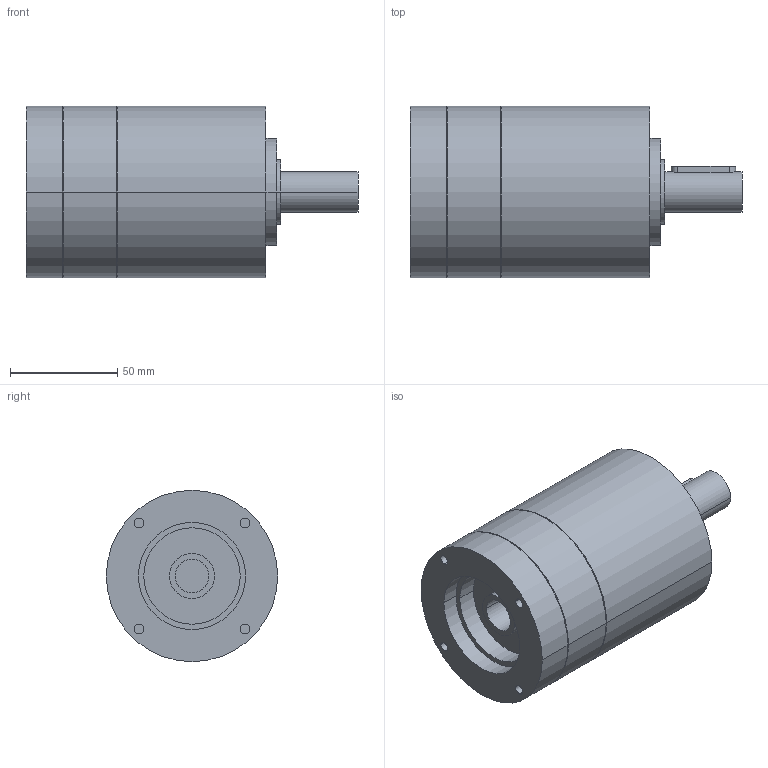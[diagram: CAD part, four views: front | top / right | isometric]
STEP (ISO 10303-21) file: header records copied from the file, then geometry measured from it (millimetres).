
FILE_DESCRIPTION(('CoCreate Modeling STEP Export'),'2;1');
FILE_NAME('GPR100_ig-3-4-5-6_19_B14_15.87_P15.stp','2014-08-26T10:07:41',(''),(''),'CoCreate Modeling STEP processor for AP214 (Solid Model)','CoCreate Modeling 16.00C 25-Feb-2009 (C) Parametric Technology GmbH','');
FILE_SCHEMA(('AUTOMOTIVE_DESIGN { 1 0 10303 214 1 1 1 1 }'));
Length unit declared in the file: millimetre
Products named in the file (2): GPR100_ig-3-4-5-6_19_B14_15.87_P15
Assembly tree (1 placements, depth 2):
  GPR100_ig-3-4-5-6_19_B14_15.87_P15
    GPR100_ig-3-4-5-6_19_B14_15.87_P15
Bounding box: 155 x 80 x 80 mm (x, y, z)
Volume: 546029.1 mm3; surface area: 49367.3 mm2
Topology: 1 solids, 1 shells, 80 faces, 201 edges, 143 vertices
Faces by surface type: cylinder 48, plane 26, cone 6
Entity records: 2026 total; most frequent: ORIENTED_EDGE 398, CARTESIAN_POINT 369, DIRECTION 264, EDGE_CURVE 199, VERTEX_POINT 143, AXIS2_PLACEMENT_3D 102, EDGE_LOOP 102, FACE_OUTER_BOUND 80
